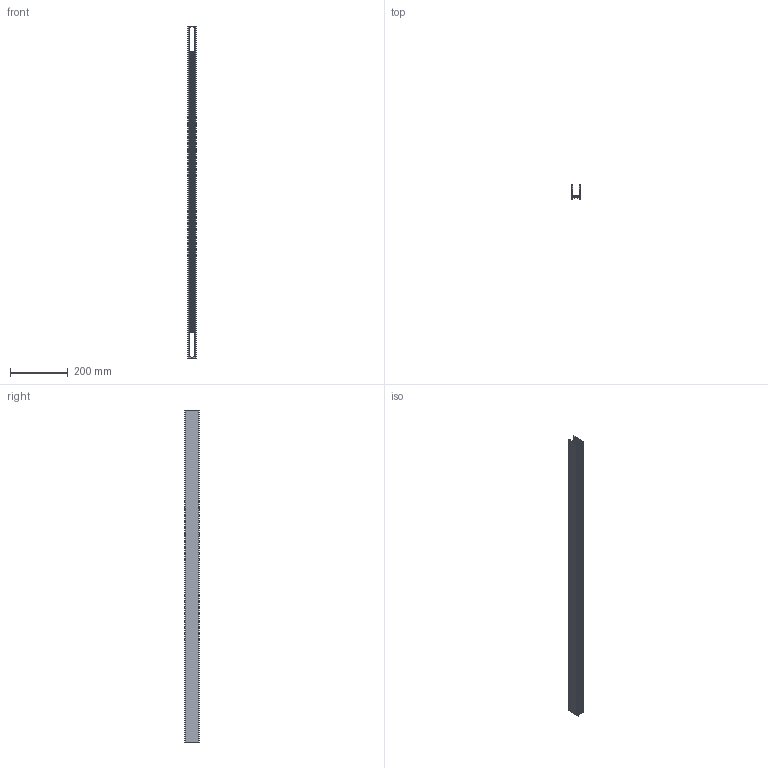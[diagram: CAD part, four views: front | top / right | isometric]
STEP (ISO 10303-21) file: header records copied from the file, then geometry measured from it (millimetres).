
FILE_DESCRIPTION(/* description */ ('Unknown'),/* implementation_level */ '2;1');
FILE_NAME(/* name */ '98469',/* time_stamp */ '2023-02-07T04:50:47-05:00',/* author */ ('Unknown'),/* organization */ ('Unknown'),/* preprocessor_version */ 'ST-DEVELOPER v18.1',/* originating_system */ 'Solid Edge',/* authorisation */ 'Unknown');
FILE_SCHEMA (('AUTOMOTIVE_DESIGN {1 0 10303 214 3 1 1}'));
Length unit declared in the file: millimetre
Products named in the file (1): L-PR0022
Bounding box: 28 x 49 x 1153 mm (x, y, z)
Volume: 262218.1 mm3; surface area: 306957.2 mm2
Topology: 1 solids, 1 shells, 148 faces, 442 edges, 296 vertices
Faces by surface type: cylinder 96, plane 52
Entity records: 5222 total; most frequent: CARTESIAN_POINT 1221, ORIENTED_EDGE 884, DIRECTION 800, EDGE_CURVE 442, VERTEX_POINT 296, AXIS2_PLACEMENT_3D 289, LINE 222, VECTOR 222
